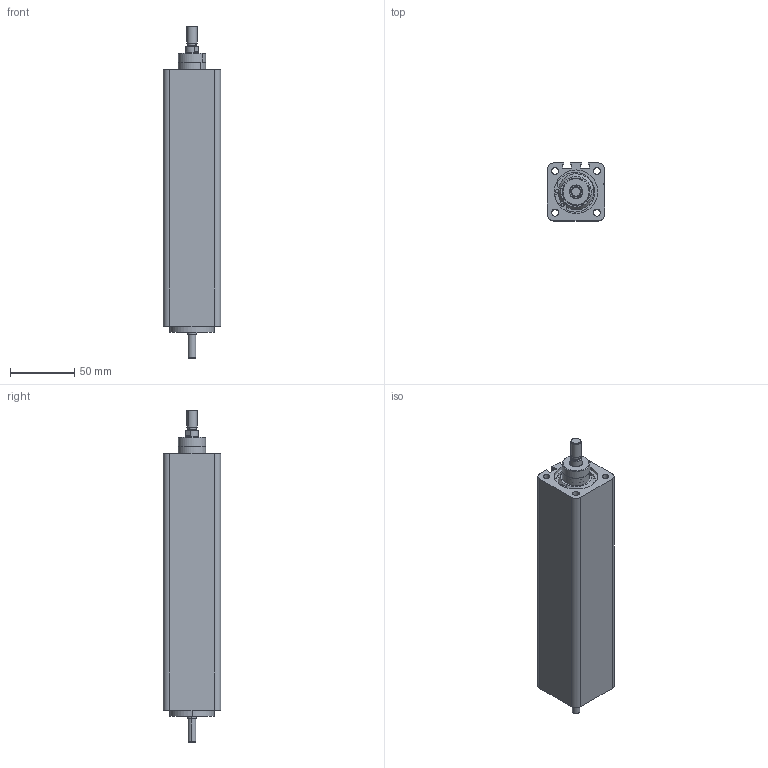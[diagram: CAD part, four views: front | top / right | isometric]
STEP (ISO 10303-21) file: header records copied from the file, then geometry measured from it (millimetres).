
FILE_DESCRIPTION (( 'STEP AP214' ), '1' );
FILE_NAME ('WLCA-032-0100 (3D).STEP', '2020-11-02T11:33:45', ( '' ), ( '' ), 'SwSTEP 2.0', 'SolidWorks 2016', '' );
FILE_SCHEMA (( 'AUTOMOTIVE_DESIGN' ));
Length unit declared in the file: millimetre
Products named in the file (3): WLCA-032-0100 (3D); Group2^WLCA-032-0100 (3D); Group1^WLCA-032-0100 (3D)
Assembly tree (2 placements, depth 2):
  WLCA-032-0100 (3D)
    Group1^WLCA-032-0100 (3D)
    Group2^WLCA-032-0100 (3D)
Bounding box: 45 x 45 x 258.9 mm (x, y, z)
Volume: 343051.4 mm3; surface area: 96117.5 mm2
Topology: 9 solids, 9 shells, 431 faces, 1083 edges, 710 vertices
Faces by surface type: plane 235, cylinder 88, bspline 76, cone 28, torus 4
Entity records: 19206 total; most frequent: CARTESIAN_POINT 7093, ORIENTED_EDGE 2166, DIRECTION 1857, EDGE_CURVE 1083, VECTOR 721, LINE 721, VERTEX_POINT 710, AXIS2_PLACEMENT_3D 568
